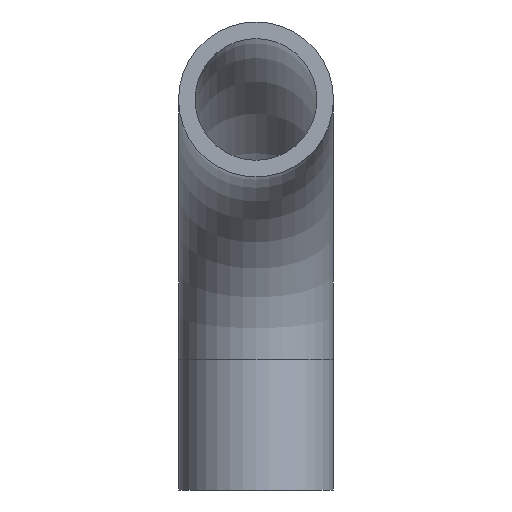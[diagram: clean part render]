
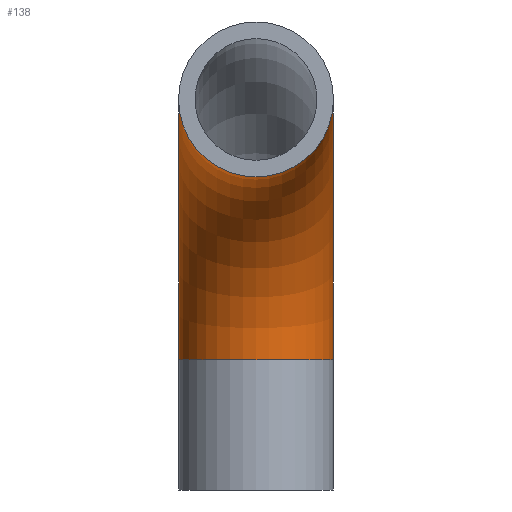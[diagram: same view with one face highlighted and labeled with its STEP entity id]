
A CAD part, left-side view. The second image highlights one B-rep face of the part: STEP entity #138.
In plain terms, the highlighted toroidal (fillet/blend) face has major radius 8 mm and minor radius 2.38 mm.
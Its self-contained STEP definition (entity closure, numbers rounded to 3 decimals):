
#24 = VERTEX_POINT('',#25);
#25 = CARTESIAN_POINT('',(84.,2.38,185.));
#32 = CYLINDRICAL_SURFACE('',#33,2.38);
#33 = AXIS2_PLACEMENT_3D('',#34,#35,#36);
#34 = CARTESIAN_POINT('',(47.5,0.,185.));
#35 = DIRECTION('',(1.,0.,0.));
#36 = DIRECTION('',(-0.,1.,0.));
#50 = EDGE_CURVE('',#24,#24,#51,.T.);
#51 = SURFACE_CURVE('',#52,(#57,#64),.PCURVE_S1.);
#52 = CIRCLE('',#53,2.38);
#53 = AXIS2_PLACEMENT_3D('',#54,#55,#56);
#54 = CARTESIAN_POINT('',(84.,0.,185.));
#55 = DIRECTION('',(1.,0.,0.));
#56 = DIRECTION('',(-0.,1.,0.));
#57 = PCURVE('',#32,#58);
#58 = DEFINITIONAL_REPRESENTATION('',(#59),#63);
#59 = LINE('',#60,#61);
#60 = CARTESIAN_POINT('',(0.,36.5));
#61 = VECTOR('',#62,1.);
#62 = DIRECTION('',(1.,0.));
#63 = ( GEOMETRIC_REPRESENTATION_CONTEXT(2) 
PARAMETRIC_REPRESENTATION_CONTEXT() REPRESENTATION_CONTEXT('2D SPACE',''
  ) );
#64 = PCURVE('',#65,#70);
#65 = TOROIDAL_SURFACE('',#66,8.,2.38);
#66 = AXIS2_PLACEMENT_3D('',#67,#68,#69);
#67 = CARTESIAN_POINT('',(84.,0.,177.));
#68 = DIRECTION('',(-0.,1.,0.));
#69 = DIRECTION('',(0.,0.,1.));
#70 = DEFINITIONAL_REPRESENTATION('',(#71),#74);
#71 = B_SPLINE_CURVE_WITH_KNOTS('',1,(#72,#73),.UNSPECIFIED.,.F.,.F.,(2,
    2),(0.,6.283),.PIECEWISE_BEZIER_KNOTS.);
#72 = CARTESIAN_POINT('',(0.,7.854));
#73 = CARTESIAN_POINT('',(0.,1.571));
#74 = ( GEOMETRIC_REPRESENTATION_CONTEXT(2) 
PARAMETRIC_REPRESENTATION_CONTEXT() REPRESENTATION_CONTEXT('2D SPACE',''
  ) );
#138 = ADVANCED_FACE('',(#139),#65,.T.);
#139 = FACE_BOUND('',#140,.T.);
#140 = EDGE_LOOP('',(#141,#164,#190,#191));
#141 = ORIENTED_EDGE('',*,*,#142,.T.);
#142 = EDGE_CURVE('',#24,#143,#145,.T.);
#143 = VERTEX_POINT('',#144);
#144 = CARTESIAN_POINT('',(92.,2.38,177.));
#145 = SEAM_CURVE('',#146,(#151,#157),.PCURVE_S1.);
#146 = CIRCLE('',#147,8.);
#147 = AXIS2_PLACEMENT_3D('',#148,#149,#150);
#148 = CARTESIAN_POINT('',(84.,2.38,177.));
#149 = DIRECTION('',(-0.,1.,0.));
#150 = DIRECTION('',(0.,0.,1.));
#151 = PCURVE('',#65,#152);
#152 = DEFINITIONAL_REPRESENTATION('',(#153),#156);
#153 = B_SPLINE_CURVE_WITH_KNOTS('',1,(#154,#155),.UNSPECIFIED.,.F.,.F.,
  (2,2),(0.,1.571),.PIECEWISE_BEZIER_KNOTS.);
#154 = CARTESIAN_POINT('',(0.,1.571));
#155 = CARTESIAN_POINT('',(1.571,1.571));
#156 = ( GEOMETRIC_REPRESENTATION_CONTEXT(2) 
PARAMETRIC_REPRESENTATION_CONTEXT() REPRESENTATION_CONTEXT('2D SPACE',''
  ) );
#157 = PCURVE('',#65,#158);
#158 = DEFINITIONAL_REPRESENTATION('',(#159),#163);
#159 = LINE('',#160,#161);
#160 = CARTESIAN_POINT('',(0.,7.854));
#161 = VECTOR('',#162,1.);
#162 = DIRECTION('',(1.,0.));
#163 = ( GEOMETRIC_REPRESENTATION_CONTEXT(2) 
PARAMETRIC_REPRESENTATION_CONTEXT() REPRESENTATION_CONTEXT('2D SPACE',''
  ) );
#164 = ORIENTED_EDGE('',*,*,#165,.T.);
#165 = EDGE_CURVE('',#143,#143,#166,.T.);
#166 = SURFACE_CURVE('',#167,(#172,#179),.PCURVE_S1.);
#167 = CIRCLE('',#168,2.38);
#168 = AXIS2_PLACEMENT_3D('',#169,#170,#171);
#169 = CARTESIAN_POINT('',(92.,0.,177.));
#170 = DIRECTION('',(0.,-0.,1.));
#171 = DIRECTION('',(1.,0.,0.));
#172 = PCURVE('',#65,#173);
#173 = DEFINITIONAL_REPRESENTATION('',(#174),#178);
#174 = LINE('',#175,#176);
#175 = CARTESIAN_POINT('',(1.571,0.));
#176 = VECTOR('',#177,1.);
#177 = DIRECTION('',(0.,1.));
#178 = ( GEOMETRIC_REPRESENTATION_CONTEXT(2) 
PARAMETRIC_REPRESENTATION_CONTEXT() REPRESENTATION_CONTEXT('2D SPACE',''
  ) );
#179 = PCURVE('',#180,#185);
#180 = CYLINDRICAL_SURFACE('',#181,2.38);
#181 = AXIS2_PLACEMENT_3D('',#182,#183,#184);
#182 = CARTESIAN_POINT('',(92.,0.,177.));
#183 = DIRECTION('',(0.,0.,-1.));
#184 = DIRECTION('',(0.,1.,0.));
#185 = DEFINITIONAL_REPRESENTATION('',(#186),#189);
#186 = B_SPLINE_CURVE_WITH_KNOTS('',1,(#187,#188),.UNSPECIFIED.,.F.,.F.,
  (2,2),(1.571,7.854),.PIECEWISE_BEZIER_KNOTS.);
#187 = CARTESIAN_POINT('',(6.283,0.));
#188 = CARTESIAN_POINT('',(0.,0.));
#189 = ( GEOMETRIC_REPRESENTATION_CONTEXT(2) 
PARAMETRIC_REPRESENTATION_CONTEXT() REPRESENTATION_CONTEXT('2D SPACE',''
  ) );
#190 = ORIENTED_EDGE('',*,*,#142,.F.);
#191 = ORIENTED_EDGE('',*,*,#50,.T.);
